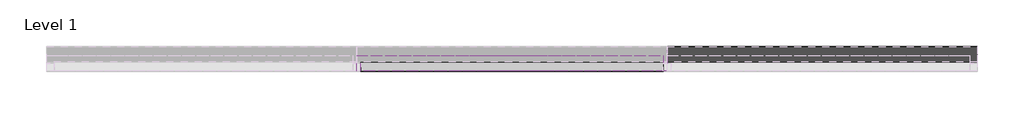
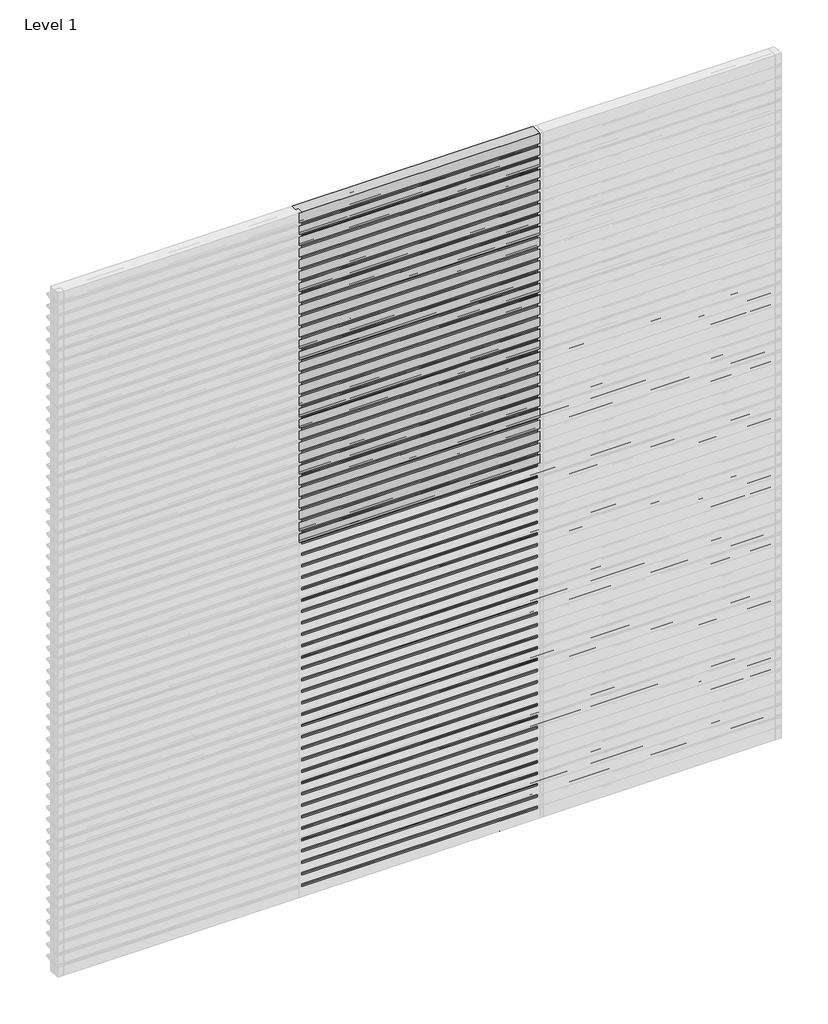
# One storey, part 4 of 6: 89 plates, 39 members.
"""IFC4 building model written with IfcOpenShell, lengths in millimetres."""

from ifc_helpers import new_model, si_unit, origin, place, context, project, spatial, transform, mapped, element, save
from components import rectangular_mullion_31e9810d, empty_system_panel_empty_de6cefbe, empty_system_panel_empty_499a71de, empty_system_panel_empty_f44495d2

model = new_model("IFC4")

# Units and contexts
model_context = context("Model", 3, world=origin())
ifc_project = project(units=[si_unit("LENGTHUNIT", "METRE", prefix="MILLI")], contexts=[model_context])

# Site, building, storey
site = spatial("IfcSite", under=ifc_project)
building = spatial("IfcBuilding", under=site)
storey = spatial("IfcBuildingStorey", under=building, Name="Level 1", Elevation=0.0)

# Members
placement = place(None, origin())
rectangular_mullion_shape = rectangular_mullion_31e9810d(model_context)
element("IfcMember", 1, ObjectType="Rectangular Mullion : RSen_21_CWM_blade - 100 ellips - 0°_gen_duco projects", at=placement, inside=storey, context=model_context, shape_type="MappedRepresentation", body=[
    mapped(rectangular_mullion_shape, transform((4000.0, 3000.0, 100.0), x_axis=(0.0, 0.0, 1.0), y_axis=(0.0, 1.0, 0.0), z_axis=(-1.0, 0.0, 0.0))),
])
element("IfcMember", 2, ObjectType="Rectangular Mullion : RSen_21_CWM_blade - 100 ellips - 0°_gen_duco projects", at=placement, inside=storey, context=model_context, shape_type="MappedRepresentation", body=[
    mapped(rectangular_mullion_shape, transform((4000.0, 3000.0, 200.0), x_axis=(0.0, 0.0, 1.0), y_axis=(0.0, 1.0, 0.0), z_axis=(-1.0, 0.0, 0.0))),
])
element("IfcMember", 3, ObjectType="Rectangular Mullion : RSen_21_CWM_blade - 100 ellips - 0°_gen_duco projects", at=placement, inside=storey, context=model_context, shape_type="MappedRepresentation", body=[
    mapped(rectangular_mullion_shape, transform((4000.0, 3000.0, 300.0), x_axis=(0.0, 0.0, 1.0), y_axis=(0.0, 1.0, 0.0), z_axis=(-1.0, 0.0, 0.0))),
])
element("IfcMember", 4, ObjectType="Rectangular Mullion : RSen_21_CWM_blade - 100 ellips - 0°_gen_duco projects", at=placement, inside=storey, context=model_context, shape_type="MappedRepresentation", body=[
    mapped(rectangular_mullion_shape, transform((4000.0, 3000.0, 400.0), x_axis=(0.0, 0.0, 1.0), y_axis=(0.0, 1.0, 0.0), z_axis=(-1.0, 0.0, 0.0))),
])
element("IfcMember", 5, ObjectType="Rectangular Mullion : RSen_21_CWM_blade - 100 ellips - 0°_gen_duco projects", at=placement, inside=storey, context=model_context, shape_type="MappedRepresentation", body=[
    mapped(rectangular_mullion_shape, transform((4000.0, 3000.0, 500.0), x_axis=(0.0, 0.0, 1.0), y_axis=(0.0, 1.0, 0.0), z_axis=(-1.0, 0.0, 0.0))),
])
element("IfcMember", 6, ObjectType="Rectangular Mullion : RSen_21_CWM_blade - 100 ellips - 0°_gen_duco projects", at=placement, inside=storey, context=model_context, shape_type="MappedRepresentation", body=[
    mapped(rectangular_mullion_shape, transform((4000.0, 3000.0, 600.0), x_axis=(0.0, 0.0, 1.0), y_axis=(0.0, 1.0, 0.0), z_axis=(-1.0, 0.0, 0.0))),
])
element("IfcMember", 7, ObjectType="Rectangular Mullion : RSen_21_CWM_blade - 100 ellips - 0°_gen_duco projects", at=placement, inside=storey, context=model_context, shape_type="MappedRepresentation", body=[
    mapped(rectangular_mullion_shape, transform((4000.0, 3000.0, 700.0), x_axis=(0.0, 0.0, 1.0), y_axis=(0.0, 1.0, 0.0), z_axis=(-1.0, 0.0, 0.0))),
])
element("IfcMember", 8, ObjectType="Rectangular Mullion : RSen_21_CWM_blade - 100 ellips - 0°_gen_duco projects", at=placement, inside=storey, context=model_context, shape_type="MappedRepresentation", body=[
    mapped(rectangular_mullion_shape, transform((4000.0, 3000.0, 800.0), x_axis=(0.0, 0.0, 1.0), y_axis=(0.0, 1.0, 0.0), z_axis=(-1.0, 0.0, 0.0))),
])
element("IfcMember", 9, ObjectType="Rectangular Mullion : RSen_21_CWM_blade - 100 ellips - 0°_gen_duco projects", at=placement, inside=storey, context=model_context, shape_type="MappedRepresentation", body=[
    mapped(rectangular_mullion_shape, transform((4000.0, 3000.0, 900.0), x_axis=(0.0, 0.0, 1.0), y_axis=(0.0, 1.0, 0.0), z_axis=(-1.0, 0.0, 0.0))),
])
element("IfcMember", 10, ObjectType="Rectangular Mullion : RSen_21_CWM_blade - 100 ellips - 0°_gen_duco projects", at=placement, inside=storey, context=model_context, shape_type="MappedRepresentation", body=[
    mapped(rectangular_mullion_shape, transform((4000.0, 3000.0, 1000.0), x_axis=(0.0, 0.0, 1.0), y_axis=(0.0, 1.0, 0.0), z_axis=(-1.0, 0.0, 0.0))),
])
element("IfcMember", 11, ObjectType="Rectangular Mullion : RSen_21_CWM_blade - 100 ellips - 0°_gen_duco projects", at=placement, inside=storey, context=model_context, shape_type="MappedRepresentation", body=[
    mapped(rectangular_mullion_shape, transform((4000.0, 3000.0, 1100.0), x_axis=(0.0, 0.0, 1.0), y_axis=(0.0, 1.0, 0.0), z_axis=(-1.0, 0.0, 0.0))),
])
element("IfcMember", 12, ObjectType="Rectangular Mullion : RSen_21_CWM_blade - 100 ellips - 0°_gen_duco projects", at=placement, inside=storey, context=model_context, shape_type="MappedRepresentation", body=[
    mapped(rectangular_mullion_shape, transform((4000.0, 3000.0, 1200.0), x_axis=(0.0, 0.0, 1.0), y_axis=(0.0, 1.0, 0.0), z_axis=(-1.0, 0.0, 0.0))),
])
element("IfcMember", 13, ObjectType="Rectangular Mullion : RSen_21_CWM_blade - 100 ellips - 0°_gen_duco projects", at=placement, inside=storey, context=model_context, shape_type="MappedRepresentation", body=[
    mapped(rectangular_mullion_shape, transform((4000.0, 3000.0, 1300.0), x_axis=(0.0, 0.0, 1.0), y_axis=(0.0, 1.0, 0.0), z_axis=(-1.0, 0.0, 0.0))),
])
element("IfcMember", 14, ObjectType="Rectangular Mullion : RSen_21_CWM_blade - 100 ellips - 0°_gen_duco projects", at=placement, inside=storey, context=model_context, shape_type="MappedRepresentation", body=[
    mapped(rectangular_mullion_shape, transform((4000.0, 3000.0, 1400.0), x_axis=(0.0, 0.0, 1.0), y_axis=(0.0, 1.0, 0.0), z_axis=(-1.0, 0.0, 0.0))),
])
element("IfcMember", 15, ObjectType="Rectangular Mullion : RSen_21_CWM_blade - 100 ellips - 0°_gen_duco projects", at=placement, inside=storey, context=model_context, shape_type="MappedRepresentation", body=[
    mapped(rectangular_mullion_shape, transform((4000.0, 3000.0, 1500.0), x_axis=(0.0, 0.0, 1.0), y_axis=(0.0, 1.0, 0.0), z_axis=(-1.0, 0.0, 0.0))),
])
element("IfcMember", 16, ObjectType="Rectangular Mullion : RSen_21_CWM_blade - 100 ellips - 0°_gen_duco projects", at=placement, inside=storey, context=model_context, shape_type="MappedRepresentation", body=[
    mapped(rectangular_mullion_shape, transform((4000.0, 3000.0, 1600.0), x_axis=(0.0, 0.0, 1.0), y_axis=(0.0, 1.0, 0.0), z_axis=(-1.0, 0.0, 0.0))),
])
element("IfcMember", 17, ObjectType="Rectangular Mullion : RSen_21_CWM_blade - 100 ellips - 0°_gen_duco projects", at=placement, inside=storey, context=model_context, shape_type="MappedRepresentation", body=[
    mapped(rectangular_mullion_shape, transform((4000.0, 3000.0, 1700.0), x_axis=(0.0, 0.0, 1.0), y_axis=(0.0, 1.0, 0.0), z_axis=(-1.0, 0.0, 0.0))),
])
element("IfcMember", 18, ObjectType="Rectangular Mullion : RSen_21_CWM_blade - 100 ellips - 0°_gen_duco projects", at=placement, inside=storey, context=model_context, shape_type="MappedRepresentation", body=[
    mapped(rectangular_mullion_shape, transform((4000.0, 3000.0, 1800.0), x_axis=(0.0, 0.0, 1.0), y_axis=(0.0, 1.0, 0.0), z_axis=(-1.0, 0.0, 0.0))),
])
element("IfcMember", 19, ObjectType="Rectangular Mullion : RSen_21_CWM_blade - 100 ellips - 0°_gen_duco projects", at=placement, inside=storey, context=model_context, shape_type="MappedRepresentation", body=[
    mapped(rectangular_mullion_shape, transform((4000.0, 3000.0, 1900.0), x_axis=(0.0, 0.0, 1.0), y_axis=(0.0, 1.0, 0.0), z_axis=(-1.0, 0.0, 0.0))),
])
element("IfcMember", 20, ObjectType="Rectangular Mullion : RSen_21_CWM_blade - 100 ellips - 0°_gen_duco projects", at=placement, inside=storey, context=model_context, shape_type="MappedRepresentation", body=[
    mapped(rectangular_mullion_shape, transform((4000.0, 3000.0, 2000.0), x_axis=(0.0, 0.0, 1.0), y_axis=(0.0, 1.0, 0.0), z_axis=(-1.0, 0.0, 0.0))),
])
element("IfcMember", 21, ObjectType="Rectangular Mullion : RSen_21_CWM_blade - 100 ellips - 0°_gen_duco projects", at=placement, inside=storey, context=model_context, shape_type="MappedRepresentation", body=[
    mapped(rectangular_mullion_shape, transform((4000.0, 3000.0, 2100.0), x_axis=(0.0, 0.0, 1.0), y_axis=(0.0, 1.0, 0.0), z_axis=(-1.0, 0.0, 0.0))),
])
element("IfcMember", 22, ObjectType="Rectangular Mullion : RSen_21_CWM_blade - 100 ellips - 0°_gen_duco projects", at=placement, inside=storey, context=model_context, shape_type="MappedRepresentation", body=[
    mapped(rectangular_mullion_shape, transform((4000.0, 3000.0, 2200.0), x_axis=(0.0, 0.0, 1.0), y_axis=(0.0, 1.0, 0.0), z_axis=(-1.0, 0.0, 0.0))),
])
element("IfcMember", 23, ObjectType="Rectangular Mullion : RSen_21_CWM_blade - 100 ellips - 0°_gen_duco projects", at=placement, inside=storey, context=model_context, shape_type="MappedRepresentation", body=[
    mapped(rectangular_mullion_shape, transform((4000.0, 3000.0, 2300.0), x_axis=(0.0, 0.0, 1.0), y_axis=(0.0, 1.0, 0.0), z_axis=(-1.0, 0.0, 0.0))),
])
element("IfcMember", 24, ObjectType="Rectangular Mullion : RSen_21_CWM_blade - 100 ellips - 0°_gen_duco projects", at=placement, inside=storey, context=model_context, shape_type="MappedRepresentation", body=[
    mapped(rectangular_mullion_shape, transform((4000.0, 3000.0, 2400.0), x_axis=(0.0, 0.0, 1.0), y_axis=(0.0, 1.0, 0.0), z_axis=(-1.0, 0.0, 0.0))),
])
element("IfcMember", 25, ObjectType="Rectangular Mullion : RSen_21_CWM_blade - 100 ellips - 0°_gen_duco projects", at=placement, inside=storey, context=model_context, shape_type="MappedRepresentation", body=[
    mapped(rectangular_mullion_shape, transform((4000.0, 3000.0, 2500.0), x_axis=(0.0, 0.0, 1.0), y_axis=(0.0, 1.0, 0.0), z_axis=(-1.0, 0.0, 0.0))),
])
element("IfcMember", 26, ObjectType="Rectangular Mullion : RSen_21_CWM_blade - 100 ellips - 0°_gen_duco projects", at=placement, inside=storey, context=model_context, shape_type="MappedRepresentation", body=[
    mapped(rectangular_mullion_shape, transform((4000.0, 3000.0, 2600.0), x_axis=(0.0, 0.0, 1.0), y_axis=(0.0, 1.0, 0.0), z_axis=(-1.0, 0.0, 0.0))),
])
element("IfcMember", 27, ObjectType="Rectangular Mullion : RSen_21_CWM_blade - 100 ellips - 0°_gen_duco projects", at=placement, inside=storey, context=model_context, shape_type="MappedRepresentation", body=[
    mapped(rectangular_mullion_shape, transform((4000.0, 3000.0, 2700.0), x_axis=(0.0, 0.0, 1.0), y_axis=(0.0, 1.0, 0.0), z_axis=(-1.0, 0.0, 0.0))),
])
element("IfcMember", 28, ObjectType="Rectangular Mullion : RSen_21_CWM_blade - 100 ellips - 0°_gen_duco projects", at=placement, inside=storey, context=model_context, shape_type="MappedRepresentation", body=[
    mapped(rectangular_mullion_shape, transform((4000.0, 3000.0, 2800.0), x_axis=(0.0, 0.0, 1.0), y_axis=(0.0, 1.0, 0.0), z_axis=(-1.0, 0.0, 0.0))),
])
element("IfcMember", 29, ObjectType="Rectangular Mullion : RSen_21_CWM_blade - 100 ellips - 0°_gen_duco projects", at=placement, inside=storey, context=model_context, shape_type="MappedRepresentation", body=[
    mapped(rectangular_mullion_shape, transform((4000.0, 3000.0, 2900.0), x_axis=(0.0, 0.0, 1.0), y_axis=(0.0, 1.0, 0.0), z_axis=(-1.0, 0.0, 0.0))),
])
element("IfcMember", 30, ObjectType="Rectangular Mullion : RSen_21_CWM_blade - 100 ellips - 0°_gen_duco projects", at=placement, inside=storey, context=model_context, shape_type="MappedRepresentation", body=[
    mapped(rectangular_mullion_shape, transform((4000.0, 3000.0, 3000.0), x_axis=(0.0, 0.0, 1.0), y_axis=(0.0, 1.0, 0.0), z_axis=(-1.0, 0.0, 0.0))),
])
element("IfcMember", 31, ObjectType="Rectangular Mullion : RSen_21_CWM_blade - 100 ellips - 0°_gen_duco projects", at=placement, inside=storey, context=model_context, shape_type="MappedRepresentation", body=[
    mapped(rectangular_mullion_shape, transform((4000.0, 3000.0, 3100.0), x_axis=(0.0, 0.0, 1.0), y_axis=(0.0, 1.0, 0.0), z_axis=(-1.0, 0.0, 0.0))),
])
element("IfcMember", 32, ObjectType="Rectangular Mullion : RSen_21_CWM_blade - 100 ellips - 0°_gen_duco projects", at=placement, inside=storey, context=model_context, shape_type="MappedRepresentation", body=[
    mapped(rectangular_mullion_shape, transform((4000.0, 3000.0, 3200.0), x_axis=(0.0, 0.0, 1.0), y_axis=(0.0, 1.0, 0.0), z_axis=(-1.0, 0.0, 0.0))),
])
element("IfcMember", 33, ObjectType="Rectangular Mullion : RSen_21_CWM_blade - 100 ellips - 0°_gen_duco projects", at=placement, inside=storey, context=model_context, shape_type="MappedRepresentation", body=[
    mapped(rectangular_mullion_shape, transform((4000.0, 3000.0, 3300.0), x_axis=(0.0, 0.0, 1.0), y_axis=(0.0, 1.0, 0.0), z_axis=(-1.0, 0.0, 0.0))),
])
element("IfcMember", 34, ObjectType="Rectangular Mullion : RSen_21_CWM_blade - 100 ellips - 0°_gen_duco projects", at=placement, inside=storey, context=model_context, shape_type="MappedRepresentation", body=[
    mapped(rectangular_mullion_shape, transform((4000.0, 3000.0, 3400.0), x_axis=(0.0, 0.0, 1.0), y_axis=(0.0, 1.0, 0.0), z_axis=(-1.0, 0.0, 0.0))),
])
element("IfcMember", 35, ObjectType="Rectangular Mullion : RSen_21_CWM_blade - 100 ellips - 0°_gen_duco projects", at=placement, inside=storey, context=model_context, shape_type="MappedRepresentation", body=[
    mapped(rectangular_mullion_shape, transform((4000.0, 3000.0, 3500.0), x_axis=(0.0, 0.0, 1.0), y_axis=(0.0, 1.0, 0.0), z_axis=(-1.0, 0.0, 0.0))),
])
element("IfcMember", 36, ObjectType="Rectangular Mullion : RSen_21_CWM_blade - 100 ellips - 0°_gen_duco projects", at=placement, inside=storey, context=model_context, shape_type="MappedRepresentation", body=[
    mapped(rectangular_mullion_shape, transform((4000.0, 3000.0, 3600.0), x_axis=(0.0, 0.0, 1.0), y_axis=(0.0, 1.0, 0.0), z_axis=(-1.0, 0.0, 0.0))),
])
element("IfcMember", 37, ObjectType="Rectangular Mullion : RSen_21_CWM_blade - 100 ellips - 0°_gen_duco projects", at=placement, inside=storey, context=model_context, shape_type="MappedRepresentation", body=[
    mapped(rectangular_mullion_shape, transform((4000.0, 3000.0, 3700.0), x_axis=(0.0, 0.0, 1.0), y_axis=(0.0, 1.0, 0.0), z_axis=(-1.0, 0.0, 0.0))),
])
element("IfcMember", 38, ObjectType="Rectangular Mullion : RSen_21_CWM_blade - 100 ellips - 0°_gen_duco projects", at=placement, inside=storey, context=model_context, shape_type="MappedRepresentation", body=[
    mapped(rectangular_mullion_shape, transform((4000.0, 3000.0, 3800.0), x_axis=(0.0, 0.0, 1.0), y_axis=(0.0, 1.0, 0.0), z_axis=(-1.0, 0.0, 0.0))),
])
element("IfcMember", 39, ObjectType="Rectangular Mullion : RSen_21_CWM_blade - 100 ellips - 0°_gen_duco projects", at=placement, inside=storey, context=model_context, shape_type="MappedRepresentation", body=[
    mapped(rectangular_mullion_shape, transform((4000.0, 3000.0, 3900.0), x_axis=(0.0, 0.0, 1.0), y_axis=(0.0, 1.0, 0.0), z_axis=(-1.0, 0.0, 0.0))),
])

# Plates
empty_system_panel_empty_shape = empty_system_panel_empty_de6cefbe(model_context)
element("IfcPlate", 40, ObjectType="Empty System Panel : Empty", at=placement, inside=storey, context=model_context, shape_type="MappedRepresentation", body=[
    mapped(empty_system_panel_empty_shape, transform((3000.0, 3000.0, 5913.0), x_axis=(-1.0, 0.0, 0.0), y_axis=(0.0, -1.0, 0.0), z_axis=(0.0, 0.0, 1.0))),
])
empty_system_panel_empty_2_shape = empty_system_panel_empty_499a71de(model_context)
element("IfcPlate", 41, ObjectType="Empty System Panel : Empty", at=placement, inside=storey, context=model_context, shape_type="MappedRepresentation", body=[
    mapped(empty_system_panel_empty_2_shape, transform((3000.0, 3000.0, 3113.0), x_axis=(-1.0, 0.0, 0.0), y_axis=(0.0, -1.0, 0.0), z_axis=(0.0, 0.0, 1.0))),
])
element("IfcPlate", 42, ObjectType="Empty System Panel : Empty", at=placement, inside=storey, context=model_context, shape_type="MappedRepresentation", body=[
    mapped(empty_system_panel_empty_2_shape, transform((3000.0, 3000.0, 3213.0), x_axis=(-1.0, 0.0, 0.0), y_axis=(0.0, -1.0, 0.0), z_axis=(0.0, 0.0, 1.0))),
])
element("IfcPlate", 43, ObjectType="Empty System Panel : Empty", at=placement, inside=storey, context=model_context, shape_type="MappedRepresentation", body=[
    mapped(empty_system_panel_empty_2_shape, transform((3000.0, 3000.0, 3313.0), x_axis=(-1.0, 0.0, 0.0), y_axis=(0.0, -1.0, 0.0), z_axis=(0.0, 0.0, 1.0))),
])
element("IfcPlate", 44, ObjectType="Empty System Panel : Empty", at=placement, inside=storey, context=model_context, shape_type="MappedRepresentation", body=[
    mapped(empty_system_panel_empty_2_shape, transform((3000.0, 3000.0, 3413.0), x_axis=(-1.0, 0.0, 0.0), y_axis=(0.0, -1.0, 0.0), z_axis=(0.0, 0.0, 1.0))),
])
element("IfcPlate", 45, ObjectType="Empty System Panel : Empty", at=placement, inside=storey, context=model_context, shape_type="MappedRepresentation", body=[
    mapped(empty_system_panel_empty_2_shape, transform((3000.0, 3000.0, 3513.0), x_axis=(-1.0, 0.0, 0.0), y_axis=(0.0, -1.0, 0.0), z_axis=(0.0, 0.0, 1.0))),
])
element("IfcPlate", 46, ObjectType="Empty System Panel : Empty", at=placement, inside=storey, context=model_context, shape_type="MappedRepresentation", body=[
    mapped(empty_system_panel_empty_2_shape, transform((3000.0, 3000.0, 3613.0), x_axis=(-1.0, 0.0, 0.0), y_axis=(0.0, -1.0, 0.0), z_axis=(0.0, 0.0, 1.0))),
])
element("IfcPlate", 47, ObjectType="Empty System Panel : Empty", at=placement, inside=storey, context=model_context, shape_type="MappedRepresentation", body=[
    mapped(empty_system_panel_empty_2_shape, transform((3000.0, 3000.0, 3713.0), x_axis=(-1.0, 0.0, 0.0), y_axis=(0.0, -1.0, 0.0), z_axis=(0.0, 0.0, 1.0))),
])
element("IfcPlate", 48, ObjectType="Empty System Panel : Empty", at=placement, inside=storey, context=model_context, shape_type="MappedRepresentation", body=[
    mapped(empty_system_panel_empty_2_shape, transform((3000.0, 3000.0, 3813.0), x_axis=(-1.0, 0.0, 0.0), y_axis=(0.0, -1.0, 0.0), z_axis=(0.0, 0.0, 1.0))),
])
element("IfcPlate", 49, ObjectType="Empty System Panel : Empty", at=placement, inside=storey, context=model_context, shape_type="MappedRepresentation", body=[
    mapped(empty_system_panel_empty_2_shape, transform((3000.0, 3000.0, 3913.0), x_axis=(-1.0, 0.0, 0.0), y_axis=(0.0, -1.0, 0.0), z_axis=(0.0, 0.0, 1.0))),
])
element("IfcPlate", 50, ObjectType="Empty System Panel : Empty", at=placement, inside=storey, context=model_context, shape_type="MappedRepresentation", body=[
    mapped(empty_system_panel_empty_2_shape, transform((3000.0, 3000.0, 4013.0), x_axis=(-1.0, 0.0, 0.0), y_axis=(0.0, -1.0, 0.0), z_axis=(0.0, 0.0, 1.0))),
])
element("IfcPlate", 51, ObjectType="Empty System Panel : Empty", at=placement, inside=storey, context=model_context, shape_type="MappedRepresentation", body=[
    mapped(empty_system_panel_empty_2_shape, transform((3000.0, 3000.0, 4113.0), x_axis=(-1.0, 0.0, 0.0), y_axis=(0.0, -1.0, 0.0), z_axis=(0.0, 0.0, 1.0))),
])
element("IfcPlate", 52, ObjectType="Empty System Panel : Empty", at=placement, inside=storey, context=model_context, shape_type="MappedRepresentation", body=[
    mapped(empty_system_panel_empty_2_shape, transform((3000.0, 3000.0, 4213.0), x_axis=(-1.0, 0.0, 0.0), y_axis=(0.0, -1.0, 0.0), z_axis=(0.0, 0.0, 1.0))),
])
element("IfcPlate", 53, ObjectType="Empty System Panel : Empty", at=placement, inside=storey, context=model_context, shape_type="MappedRepresentation", body=[
    mapped(empty_system_panel_empty_2_shape, transform((3000.0, 3000.0, 4313.0), x_axis=(-1.0, 0.0, 0.0), y_axis=(0.0, -1.0, 0.0), z_axis=(0.0, 0.0, 1.0))),
])
element("IfcPlate", 54, ObjectType="Empty System Panel : Empty", at=placement, inside=storey, context=model_context, shape_type="MappedRepresentation", body=[
    mapped(empty_system_panel_empty_2_shape, transform((3000.0, 3000.0, 4413.0), x_axis=(-1.0, 0.0, 0.0), y_axis=(0.0, -1.0, 0.0), z_axis=(0.0, 0.0, 1.0))),
])
element("IfcPlate", 55, ObjectType="Empty System Panel : Empty", at=placement, inside=storey, context=model_context, shape_type="MappedRepresentation", body=[
    mapped(empty_system_panel_empty_2_shape, transform((3000.0, 3000.0, 4513.0), x_axis=(-1.0, 0.0, 0.0), y_axis=(0.0, -1.0, 0.0), z_axis=(0.0, 0.0, 1.0))),
])
element("IfcPlate", 56, ObjectType="Empty System Panel : Empty", at=placement, inside=storey, context=model_context, shape_type="MappedRepresentation", body=[
    mapped(empty_system_panel_empty_2_shape, transform((3000.0, 3000.0, 4613.0), x_axis=(-1.0, 0.0, 0.0), y_axis=(0.0, -1.0, 0.0), z_axis=(0.0, 0.0, 1.0))),
])
element("IfcPlate", 57, ObjectType="Empty System Panel : Empty", at=placement, inside=storey, context=model_context, shape_type="MappedRepresentation", body=[
    mapped(empty_system_panel_empty_2_shape, transform((3000.0, 3000.0, 4713.0), x_axis=(-1.0, 0.0, 0.0), y_axis=(0.0, -1.0, 0.0), z_axis=(0.0, 0.0, 1.0))),
])
element("IfcPlate", 58, ObjectType="Empty System Panel : Empty", at=placement, inside=storey, context=model_context, shape_type="MappedRepresentation", body=[
    mapped(empty_system_panel_empty_2_shape, transform((3000.0, 3000.0, 4813.0), x_axis=(-1.0, 0.0, 0.0), y_axis=(0.0, -1.0, 0.0), z_axis=(0.0, 0.0, 1.0))),
])
element("IfcPlate", 59, ObjectType="Empty System Panel : Empty", at=placement, inside=storey, context=model_context, shape_type="MappedRepresentation", body=[
    mapped(empty_system_panel_empty_2_shape, transform((3000.0, 3000.0, 4913.0), x_axis=(-1.0, 0.0, 0.0), y_axis=(0.0, -1.0, 0.0), z_axis=(0.0, 0.0, 1.0))),
])
element("IfcPlate", 60, ObjectType="Empty System Panel : Empty", at=placement, inside=storey, context=model_context, shape_type="MappedRepresentation", body=[
    mapped(empty_system_panel_empty_2_shape, transform((3000.0, 3000.0, 5013.0), x_axis=(-1.0, 0.0, 0.0), y_axis=(0.0, -1.0, 0.0), z_axis=(0.0, 0.0, 1.0))),
])
element("IfcPlate", 61, ObjectType="Empty System Panel : Empty", at=placement, inside=storey, context=model_context, shape_type="MappedRepresentation", body=[
    mapped(empty_system_panel_empty_2_shape, transform((3000.0, 3000.0, 5113.0), x_axis=(-1.0, 0.0, 0.0), y_axis=(0.0, -1.0, 0.0), z_axis=(0.0, 0.0, 1.0))),
])
element("IfcPlate", 62, ObjectType="Empty System Panel : Empty", at=placement, inside=storey, context=model_context, shape_type="MappedRepresentation", body=[
    mapped(empty_system_panel_empty_2_shape, transform((3000.0, 3000.0, 5213.0), x_axis=(-1.0, 0.0, 0.0), y_axis=(0.0, -1.0, 0.0), z_axis=(0.0, 0.0, 1.0))),
])
element("IfcPlate", 63, ObjectType="Empty System Panel : Empty", at=placement, inside=storey, context=model_context, shape_type="MappedRepresentation", body=[
    mapped(empty_system_panel_empty_2_shape, transform((3000.0, 3000.0, 5313.0), x_axis=(-1.0, 0.0, 0.0), y_axis=(0.0, -1.0, 0.0), z_axis=(0.0, 0.0, 1.0))),
])
element("IfcPlate", 64, ObjectType="Empty System Panel : Empty", at=placement, inside=storey, context=model_context, shape_type="MappedRepresentation", body=[
    mapped(empty_system_panel_empty_2_shape, transform((3000.0, 3000.0, 5413.0), x_axis=(-1.0, 0.0, 0.0), y_axis=(0.0, -1.0, 0.0), z_axis=(0.0, 0.0, 1.0))),
])
element("IfcPlate", 65, ObjectType="Empty System Panel : Empty", at=placement, inside=storey, context=model_context, shape_type="MappedRepresentation", body=[
    mapped(empty_system_panel_empty_2_shape, transform((3000.0, 3000.0, 5513.0), x_axis=(-1.0, 0.0, 0.0), y_axis=(0.0, -1.0, 0.0), z_axis=(0.0, 0.0, 1.0))),
])
element("IfcPlate", 66, ObjectType="Empty System Panel : Empty", at=placement, inside=storey, context=model_context, shape_type="MappedRepresentation", body=[
    mapped(empty_system_panel_empty_2_shape, transform((3000.0, 3000.0, 5613.0), x_axis=(-1.0, 0.0, 0.0), y_axis=(0.0, -1.0, 0.0), z_axis=(0.0, 0.0, 1.0))),
])
element("IfcPlate", 67, ObjectType="Empty System Panel : Empty", at=placement, inside=storey, context=model_context, shape_type="MappedRepresentation", body=[
    mapped(empty_system_panel_empty_2_shape, transform((3000.0, 3000.0, 5713.0), x_axis=(-1.0, 0.0, 0.0), y_axis=(0.0, -1.0, 0.0), z_axis=(0.0, 0.0, 1.0))),
])
element("IfcPlate", 68, ObjectType="Empty System Panel : Empty", at=placement, inside=storey, context=model_context, shape_type="MappedRepresentation", body=[
    mapped(empty_system_panel_empty_2_shape, transform((3000.0, 3000.0, 5813.0), x_axis=(-1.0, 0.0, 0.0), y_axis=(0.0, -1.0, 0.0), z_axis=(0.0, 0.0, 1.0))),
])
empty_system_panel_empty_3_shape = empty_system_panel_empty_f44495d2(model_context)
element("IfcPlate", 69, ObjectType="Empty System Panel : Empty", at=placement, inside=storey, context=model_context, shape_type="MappedRepresentation", body=[
    mapped(empty_system_panel_empty_3_shape, transform((3000.0, 3000.0, 0.0), x_axis=(-1.0, 0.0, 0.0), y_axis=(0.0, -1.0, 0.0), z_axis=(0.0, 0.0, 1.0))),
])
element("IfcPlate", 70, ObjectType="Empty System Panel : Empty", at=placement, inside=storey, context=model_context, shape_type="MappedRepresentation", body=[
    mapped(empty_system_panel_empty_3_shape, transform((3000.0, 3000.0, 100.0), x_axis=(-1.0, 0.0, 0.0), y_axis=(0.0, -1.0, 0.0), z_axis=(0.0, 0.0, 1.0))),
])
element("IfcPlate", 71, ObjectType="Empty System Panel : Empty", at=placement, inside=storey, context=model_context, shape_type="MappedRepresentation", body=[
    mapped(empty_system_panel_empty_3_shape, transform((3000.0, 3000.0, 200.0), x_axis=(-1.0, 0.0, 0.0), y_axis=(0.0, -1.0, 0.0), z_axis=(0.0, 0.0, 1.0))),
])
element("IfcPlate", 72, ObjectType="Empty System Panel : Empty", at=placement, inside=storey, context=model_context, shape_type="MappedRepresentation", body=[
    mapped(empty_system_panel_empty_3_shape, transform((3000.0, 3000.0, 300.0), x_axis=(-1.0, 0.0, 0.0), y_axis=(0.0, -1.0, 0.0), z_axis=(0.0, 0.0, 1.0))),
])
element("IfcPlate", 73, ObjectType="Empty System Panel : Empty", at=placement, inside=storey, context=model_context, shape_type="MappedRepresentation", body=[
    mapped(empty_system_panel_empty_3_shape, transform((3000.0, 3000.0, 400.0), x_axis=(-1.0, 0.0, 0.0), y_axis=(0.0, -1.0, 0.0), z_axis=(0.0, 0.0, 1.0))),
])
element("IfcPlate", 74, ObjectType="Empty System Panel : Empty", at=placement, inside=storey, context=model_context, shape_type="MappedRepresentation", body=[
    mapped(empty_system_panel_empty_3_shape, transform((3000.0, 3000.0, 500.0), x_axis=(-1.0, 0.0, 0.0), y_axis=(0.0, -1.0, 0.0), z_axis=(0.0, 0.0, 1.0))),
])
element("IfcPlate", 75, ObjectType="Empty System Panel : Empty", at=placement, inside=storey, context=model_context, shape_type="MappedRepresentation", body=[
    mapped(empty_system_panel_empty_3_shape, transform((3000.0, 3000.0, 600.0), x_axis=(-1.0, 0.0, 0.0), y_axis=(0.0, -1.0, 0.0), z_axis=(0.0, 0.0, 1.0))),
])
element("IfcPlate", 76, ObjectType="Empty System Panel : Empty", at=placement, inside=storey, context=model_context, shape_type="MappedRepresentation", body=[
    mapped(empty_system_panel_empty_3_shape, transform((3000.0, 3000.0, 700.0), x_axis=(-1.0, 0.0, 0.0), y_axis=(0.0, -1.0, 0.0), z_axis=(0.0, 0.0, 1.0))),
])
element("IfcPlate", 77, ObjectType="Empty System Panel : Empty", at=placement, inside=storey, context=model_context, shape_type="MappedRepresentation", body=[
    mapped(empty_system_panel_empty_3_shape, transform((3000.0, 3000.0, 800.0), x_axis=(-1.0, 0.0, 0.0), y_axis=(0.0, -1.0, 0.0), z_axis=(0.0, 0.0, 1.0))),
])
element("IfcPlate", 78, ObjectType="Empty System Panel : Empty", at=placement, inside=storey, context=model_context, shape_type="MappedRepresentation", body=[
    mapped(empty_system_panel_empty_3_shape, transform((3000.0, 3000.0, 900.0), x_axis=(-1.0, 0.0, 0.0), y_axis=(0.0, -1.0, 0.0), z_axis=(0.0, 0.0, 1.0))),
])
element("IfcPlate", 79, ObjectType="Empty System Panel : Empty", at=placement, inside=storey, context=model_context, shape_type="MappedRepresentation", body=[
    mapped(empty_system_panel_empty_3_shape, transform((3000.0, 3000.0, 1000.0), x_axis=(-1.0, 0.0, 0.0), y_axis=(0.0, -1.0, 0.0), z_axis=(0.0, 0.0, 1.0))),
])
element("IfcPlate", 80, ObjectType="Empty System Panel : Empty", at=placement, inside=storey, context=model_context, shape_type="MappedRepresentation", body=[
    mapped(empty_system_panel_empty_3_shape, transform((3000.0, 3000.0, 1100.0), x_axis=(-1.0, 0.0, 0.0), y_axis=(0.0, -1.0, 0.0), z_axis=(0.0, 0.0, 1.0))),
])
element("IfcPlate", 81, ObjectType="Empty System Panel : Empty", at=placement, inside=storey, context=model_context, shape_type="MappedRepresentation", body=[
    mapped(empty_system_panel_empty_3_shape, transform((3000.0, 3000.0, 1200.0), x_axis=(-1.0, 0.0, 0.0), y_axis=(0.0, -1.0, 0.0), z_axis=(0.0, 0.0, 1.0))),
])
element("IfcPlate", 82, ObjectType="Empty System Panel : Empty", at=placement, inside=storey, context=model_context, shape_type="MappedRepresentation", body=[
    mapped(empty_system_panel_empty_3_shape, transform((3000.0, 3000.0, 1300.0), x_axis=(-1.0, 0.0, 0.0), y_axis=(0.0, -1.0, 0.0), z_axis=(0.0, 0.0, 1.0))),
])
element("IfcPlate", 83, ObjectType="Empty System Panel : Empty", at=placement, inside=storey, context=model_context, shape_type="MappedRepresentation", body=[
    mapped(empty_system_panel_empty_3_shape, transform((3000.0, 3000.0, 1400.0), x_axis=(-1.0, 0.0, 0.0), y_axis=(0.0, -1.0, 0.0), z_axis=(0.0, 0.0, 1.0))),
])
element("IfcPlate", 84, ObjectType="Empty System Panel : Empty", at=placement, inside=storey, context=model_context, shape_type="MappedRepresentation", body=[
    mapped(empty_system_panel_empty_3_shape, transform((3000.0, 3000.0, 1500.0), x_axis=(-1.0, 0.0, 0.0), y_axis=(0.0, -1.0, 0.0), z_axis=(0.0, 0.0, 1.0))),
])
element("IfcPlate", 85, ObjectType="Empty System Panel : Empty", at=placement, inside=storey, context=model_context, shape_type="MappedRepresentation", body=[
    mapped(empty_system_panel_empty_3_shape, transform((3000.0, 3000.0, 1600.0), x_axis=(-1.0, 0.0, 0.0), y_axis=(0.0, -1.0, 0.0), z_axis=(0.0, 0.0, 1.0))),
])
element("IfcPlate", 86, ObjectType="Empty System Panel : Empty", at=placement, inside=storey, context=model_context, shape_type="MappedRepresentation", body=[
    mapped(empty_system_panel_empty_3_shape, transform((3000.0, 3000.0, 1700.0), x_axis=(-1.0, 0.0, 0.0), y_axis=(0.0, -1.0, 0.0), z_axis=(0.0, 0.0, 1.0))),
])
element("IfcPlate", 87, ObjectType="Empty System Panel : Empty", at=placement, inside=storey, context=model_context, shape_type="MappedRepresentation", body=[
    mapped(empty_system_panel_empty_3_shape, transform((3000.0, 3000.0, 1800.0), x_axis=(-1.0, 0.0, 0.0), y_axis=(0.0, -1.0, 0.0), z_axis=(0.0, 0.0, 1.0))),
])
element("IfcPlate", 88, ObjectType="Empty System Panel : Empty", at=placement, inside=storey, context=model_context, shape_type="MappedRepresentation", body=[
    mapped(empty_system_panel_empty_3_shape, transform((3000.0, 3000.0, 1900.0), x_axis=(-1.0, 0.0, 0.0), y_axis=(0.0, -1.0, 0.0), z_axis=(0.0, 0.0, 1.0))),
])
element("IfcPlate", 89, ObjectType="Empty System Panel : Empty", at=placement, inside=storey, context=model_context, shape_type="MappedRepresentation", body=[
    mapped(empty_system_panel_empty_3_shape, transform((3000.0, 3000.0, 2000.0), x_axis=(-1.0, 0.0, 0.0), y_axis=(0.0, -1.0, 0.0), z_axis=(0.0, 0.0, 1.0))),
])
element("IfcPlate", 90, ObjectType="Empty System Panel : Empty", at=placement, inside=storey, context=model_context, shape_type="MappedRepresentation", body=[
    mapped(empty_system_panel_empty_3_shape, transform((3000.0, 3000.0, 2100.0), x_axis=(-1.0, 0.0, 0.0), y_axis=(0.0, -1.0, 0.0), z_axis=(0.0, 0.0, 1.0))),
])
element("IfcPlate", 91, ObjectType="Empty System Panel : Empty", at=placement, inside=storey, context=model_context, shape_type="MappedRepresentation", body=[
    mapped(empty_system_panel_empty_3_shape, transform((3000.0, 3000.0, 2200.0), x_axis=(-1.0, 0.0, 0.0), y_axis=(0.0, -1.0, 0.0), z_axis=(0.0, 0.0, 1.0))),
])
element("IfcPlate", 92, ObjectType="Empty System Panel : Empty", at=placement, inside=storey, context=model_context, shape_type="MappedRepresentation", body=[
    mapped(empty_system_panel_empty_3_shape, transform((3000.0, 3000.0, 2300.0), x_axis=(-1.0, 0.0, 0.0), y_axis=(0.0, -1.0, 0.0), z_axis=(0.0, 0.0, 1.0))),
])
element("IfcPlate", 93, ObjectType="Empty System Panel : Empty", at=placement, inside=storey, context=model_context, shape_type="MappedRepresentation", body=[
    mapped(empty_system_panel_empty_3_shape, transform((3000.0, 3000.0, 2400.0), x_axis=(-1.0, 0.0, 0.0), y_axis=(0.0, -1.0, 0.0), z_axis=(0.0, 0.0, 1.0))),
])
element("IfcPlate", 94, ObjectType="Empty System Panel : Empty", at=placement, inside=storey, context=model_context, shape_type="MappedRepresentation", body=[
    mapped(empty_system_panel_empty_3_shape, transform((3000.0, 3000.0, 2500.0), x_axis=(-1.0, 0.0, 0.0), y_axis=(0.0, -1.0, 0.0), z_axis=(0.0, 0.0, 1.0))),
])
element("IfcPlate", 95, ObjectType="Empty System Panel : Empty", at=placement, inside=storey, context=model_context, shape_type="MappedRepresentation", body=[
    mapped(empty_system_panel_empty_3_shape, transform((3000.0, 3000.0, 2600.0), x_axis=(-1.0, 0.0, 0.0), y_axis=(0.0, -1.0, 0.0), z_axis=(0.0, 0.0, 1.0))),
])
element("IfcPlate", 96, ObjectType="Empty System Panel : Empty", at=placement, inside=storey, context=model_context, shape_type="MappedRepresentation", body=[
    mapped(empty_system_panel_empty_3_shape, transform((3000.0, 3000.0, 2700.0), x_axis=(-1.0, 0.0, 0.0), y_axis=(0.0, -1.0, 0.0), z_axis=(0.0, 0.0, 1.0))),
])
element("IfcPlate", 97, ObjectType="Empty System Panel : Empty", at=placement, inside=storey, context=model_context, shape_type="MappedRepresentation", body=[
    mapped(empty_system_panel_empty_3_shape, transform((3000.0, 3000.0, 2800.0), x_axis=(-1.0, 0.0, 0.0), y_axis=(0.0, -1.0, 0.0), z_axis=(0.0, 0.0, 1.0))),
])
element("IfcPlate", 98, ObjectType="Empty System Panel : Empty", at=placement, inside=storey, context=model_context, shape_type="MappedRepresentation", body=[
    mapped(empty_system_panel_empty_3_shape, transform((3000.0, 3000.0, 2900.0), x_axis=(-1.0, 0.0, 0.0), y_axis=(0.0, -1.0, 0.0), z_axis=(0.0, 0.0, 1.0))),
])
element("IfcPlate", 99, ObjectType="Empty System Panel : Empty", at=placement, inside=storey, context=model_context, shape_type="MappedRepresentation", body=[
    mapped(empty_system_panel_empty_3_shape, transform((3000.0, 3000.0, 3000.0), x_axis=(-1.0, 0.0, 0.0), y_axis=(0.0, -1.0, 0.0), z_axis=(0.0, 0.0, 1.0))),
])
element("IfcPlate", 100, ObjectType="Empty System Panel : Empty", at=placement, inside=storey, context=model_context, shape_type="MappedRepresentation", body=[
    mapped(empty_system_panel_empty_3_shape, transform((3000.0, 3000.0, 3100.0), x_axis=(-1.0, 0.0, 0.0), y_axis=(0.0, -1.0, 0.0), z_axis=(0.0, 0.0, 1.0))),
])
element("IfcPlate", 101, ObjectType="Empty System Panel : Empty", at=placement, inside=storey, context=model_context, shape_type="MappedRepresentation", body=[
    mapped(empty_system_panel_empty_3_shape, transform((3000.0, 3000.0, 3200.0), x_axis=(-1.0, 0.0, 0.0), y_axis=(0.0, -1.0, 0.0), z_axis=(0.0, 0.0, 1.0))),
])
element("IfcPlate", 102, ObjectType="Empty System Panel : Empty", at=placement, inside=storey, context=model_context, shape_type="MappedRepresentation", body=[
    mapped(empty_system_panel_empty_3_shape, transform((3000.0, 3000.0, 3300.0), x_axis=(-1.0, 0.0, 0.0), y_axis=(0.0, -1.0, 0.0), z_axis=(0.0, 0.0, 1.0))),
])
element("IfcPlate", 103, ObjectType="Empty System Panel : Empty", at=placement, inside=storey, context=model_context, shape_type="MappedRepresentation", body=[
    mapped(empty_system_panel_empty_3_shape, transform((3000.0, 3000.0, 3400.0), x_axis=(-1.0, 0.0, 0.0), y_axis=(0.0, -1.0, 0.0), z_axis=(0.0, 0.0, 1.0))),
])
element("IfcPlate", 104, ObjectType="Empty System Panel : Empty", at=placement, inside=storey, context=model_context, shape_type="MappedRepresentation", body=[
    mapped(empty_system_panel_empty_3_shape, transform((3000.0, 3000.0, 3500.0), x_axis=(-1.0, 0.0, 0.0), y_axis=(0.0, -1.0, 0.0), z_axis=(0.0, 0.0, 1.0))),
])
element("IfcPlate", 105, ObjectType="Empty System Panel : Empty", at=placement, inside=storey, context=model_context, shape_type="MappedRepresentation", body=[
    mapped(empty_system_panel_empty_3_shape, transform((3000.0, 3000.0, 3600.0), x_axis=(-1.0, 0.0, 0.0), y_axis=(0.0, -1.0, 0.0), z_axis=(0.0, 0.0, 1.0))),
])
element("IfcPlate", 106, ObjectType="Empty System Panel : Empty", at=placement, inside=storey, context=model_context, shape_type="MappedRepresentation", body=[
    mapped(empty_system_panel_empty_3_shape, transform((3000.0, 3000.0, 3700.0), x_axis=(-1.0, 0.0, 0.0), y_axis=(0.0, -1.0, 0.0), z_axis=(0.0, 0.0, 1.0))),
])
element("IfcPlate", 107, ObjectType="Empty System Panel : Empty", at=placement, inside=storey, context=model_context, shape_type="MappedRepresentation", body=[
    mapped(empty_system_panel_empty_3_shape, transform((3000.0, 3000.0, 3800.0), x_axis=(-1.0, 0.0, 0.0), y_axis=(0.0, -1.0, 0.0), z_axis=(0.0, 0.0, 1.0))),
])
element("IfcPlate", 108, ObjectType="Empty System Panel : Empty", at=placement, inside=storey, context=model_context, shape_type="MappedRepresentation", body=[
    mapped(empty_system_panel_empty_3_shape, transform((3000.0, 3000.0, 3900.0), x_axis=(-1.0, 0.0, 0.0), y_axis=(0.0, -1.0, 0.0), z_axis=(0.0, 0.0, 1.0))),
])
element("IfcPlate", 109, ObjectType="Empty System Panel : Empty", at=placement, inside=storey, context=model_context, shape_type="MappedRepresentation", body=[
    mapped(empty_system_panel_empty_3_shape, transform((3000.0, 3000.0, 4000.0), x_axis=(-1.0, 0.0, 0.0), y_axis=(0.0, -1.0, 0.0), z_axis=(0.0, 0.0, 1.0))),
])
element("IfcPlate", 110, ObjectType="Empty System Panel : Empty", at=placement, inside=storey, context=model_context, shape_type="MappedRepresentation", body=[
    mapped(empty_system_panel_empty_3_shape, transform((3000.0, 3000.0, 4100.0), x_axis=(-1.0, 0.0, 0.0), y_axis=(0.0, -1.0, 0.0), z_axis=(0.0, 0.0, 1.0))),
])
element("IfcPlate", 111, ObjectType="Empty System Panel : Empty", at=placement, inside=storey, context=model_context, shape_type="MappedRepresentation", body=[
    mapped(empty_system_panel_empty_3_shape, transform((3000.0, 3000.0, 4200.0), x_axis=(-1.0, 0.0, 0.0), y_axis=(0.0, -1.0, 0.0), z_axis=(0.0, 0.0, 1.0))),
])
element("IfcPlate", 112, ObjectType="Empty System Panel : Empty", at=placement, inside=storey, context=model_context, shape_type="MappedRepresentation", body=[
    mapped(empty_system_panel_empty_3_shape, transform((3000.0, 3000.0, 4300.0), x_axis=(-1.0, 0.0, 0.0), y_axis=(0.0, -1.0, 0.0), z_axis=(0.0, 0.0, 1.0))),
])
element("IfcPlate", 113, ObjectType="Empty System Panel : Empty", at=placement, inside=storey, context=model_context, shape_type="MappedRepresentation", body=[
    mapped(empty_system_panel_empty_3_shape, transform((3000.0, 3000.0, 4400.0), x_axis=(-1.0, 0.0, 0.0), y_axis=(0.0, -1.0, 0.0), z_axis=(0.0, 0.0, 1.0))),
])
element("IfcPlate", 114, ObjectType="Empty System Panel : Empty", at=placement, inside=storey, context=model_context, shape_type="MappedRepresentation", body=[
    mapped(empty_system_panel_empty_3_shape, transform((3000.0, 3000.0, 4500.0), x_axis=(-1.0, 0.0, 0.0), y_axis=(0.0, -1.0, 0.0), z_axis=(0.0, 0.0, 1.0))),
])
element("IfcPlate", 115, ObjectType="Empty System Panel : Empty", at=placement, inside=storey, context=model_context, shape_type="MappedRepresentation", body=[
    mapped(empty_system_panel_empty_3_shape, transform((3000.0, 3000.0, 4600.0), x_axis=(-1.0, 0.0, 0.0), y_axis=(0.0, -1.0, 0.0), z_axis=(0.0, 0.0, 1.0))),
])
element("IfcPlate", 116, ObjectType="Empty System Panel : Empty", at=placement, inside=storey, context=model_context, shape_type="MappedRepresentation", body=[
    mapped(empty_system_panel_empty_3_shape, transform((3000.0, 3000.0, 4700.0), x_axis=(-1.0, 0.0, 0.0), y_axis=(0.0, -1.0, 0.0), z_axis=(0.0, 0.0, 1.0))),
])
element("IfcPlate", 117, ObjectType="Empty System Panel : Empty", at=placement, inside=storey, context=model_context, shape_type="MappedRepresentation", body=[
    mapped(empty_system_panel_empty_3_shape, transform((3000.0, 3000.0, 4800.0), x_axis=(-1.0, 0.0, 0.0), y_axis=(0.0, -1.0, 0.0), z_axis=(0.0, 0.0, 1.0))),
])
element("IfcPlate", 118, ObjectType="Empty System Panel : Empty", at=placement, inside=storey, context=model_context, shape_type="MappedRepresentation", body=[
    mapped(empty_system_panel_empty_3_shape, transform((3000.0, 3000.0, 4900.0), x_axis=(-1.0, 0.0, 0.0), y_axis=(0.0, -1.0, 0.0), z_axis=(0.0, 0.0, 1.0))),
])
element("IfcPlate", 119, ObjectType="Empty System Panel : Empty", at=placement, inside=storey, context=model_context, shape_type="MappedRepresentation", body=[
    mapped(empty_system_panel_empty_3_shape, transform((3000.0, 3000.0, 5000.0), x_axis=(-1.0, 0.0, 0.0), y_axis=(0.0, -1.0, 0.0), z_axis=(0.0, 0.0, 1.0))),
])
element("IfcPlate", 120, ObjectType="Empty System Panel : Empty", at=placement, inside=storey, context=model_context, shape_type="MappedRepresentation", body=[
    mapped(empty_system_panel_empty_3_shape, transform((3000.0, 3000.0, 5100.0), x_axis=(-1.0, 0.0, 0.0), y_axis=(0.0, -1.0, 0.0), z_axis=(0.0, 0.0, 1.0))),
])
element("IfcPlate", 121, ObjectType="Empty System Panel : Empty", at=placement, inside=storey, context=model_context, shape_type="MappedRepresentation", body=[
    mapped(empty_system_panel_empty_3_shape, transform((3000.0, 3000.0, 5200.0), x_axis=(-1.0, 0.0, 0.0), y_axis=(0.0, -1.0, 0.0), z_axis=(0.0, 0.0, 1.0))),
])
element("IfcPlate", 122, ObjectType="Empty System Panel : Empty", at=placement, inside=storey, context=model_context, shape_type="MappedRepresentation", body=[
    mapped(empty_system_panel_empty_3_shape, transform((3000.0, 3000.0, 5300.0), x_axis=(-1.0, 0.0, 0.0), y_axis=(0.0, -1.0, 0.0), z_axis=(0.0, 0.0, 1.0))),
])
element("IfcPlate", 123, ObjectType="Empty System Panel : Empty", at=placement, inside=storey, context=model_context, shape_type="MappedRepresentation", body=[
    mapped(empty_system_panel_empty_3_shape, transform((3000.0, 3000.0, 5400.0), x_axis=(-1.0, 0.0, 0.0), y_axis=(0.0, -1.0, 0.0), z_axis=(0.0, 0.0, 1.0))),
])
element("IfcPlate", 124, ObjectType="Empty System Panel : Empty", at=placement, inside=storey, context=model_context, shape_type="MappedRepresentation", body=[
    mapped(empty_system_panel_empty_3_shape, transform((3000.0, 3000.0, 5500.0), x_axis=(-1.0, 0.0, 0.0), y_axis=(0.0, -1.0, 0.0), z_axis=(0.0, 0.0, 1.0))),
])
element("IfcPlate", 125, ObjectType="Empty System Panel : Empty", at=placement, inside=storey, context=model_context, shape_type="MappedRepresentation", body=[
    mapped(empty_system_panel_empty_3_shape, transform((3000.0, 3000.0, 5600.0), x_axis=(-1.0, 0.0, 0.0), y_axis=(0.0, -1.0, 0.0), z_axis=(0.0, 0.0, 1.0))),
])
element("IfcPlate", 126, ObjectType="Empty System Panel : Empty", at=placement, inside=storey, context=model_context, shape_type="MappedRepresentation", body=[
    mapped(empty_system_panel_empty_3_shape, transform((3000.0, 3000.0, 5700.0), x_axis=(-1.0, 0.0, 0.0), y_axis=(0.0, -1.0, 0.0), z_axis=(0.0, 0.0, 1.0))),
])
element("IfcPlate", 127, ObjectType="Empty System Panel : Empty", at=placement, inside=storey, context=model_context, shape_type="MappedRepresentation", body=[
    mapped(empty_system_panel_empty_3_shape, transform((3000.0, 3000.0, 5800.0), x_axis=(-1.0, 0.0, 0.0), y_axis=(0.0, -1.0, 0.0), z_axis=(0.0, 0.0, 1.0))),
])
element("IfcPlate", 128, ObjectType="Empty System Panel : Empty", at=placement, inside=storey, context=model_context, shape_type="MappedRepresentation", body=[
    mapped(empty_system_panel_empty_3_shape, transform((3000.0, 3000.0, 5900.0), x_axis=(-1.0, 0.0, 0.0), y_axis=(0.0, -1.0, 0.0), z_axis=(0.0, 0.0, 1.0))),
])

save(model, "model.ifc")
